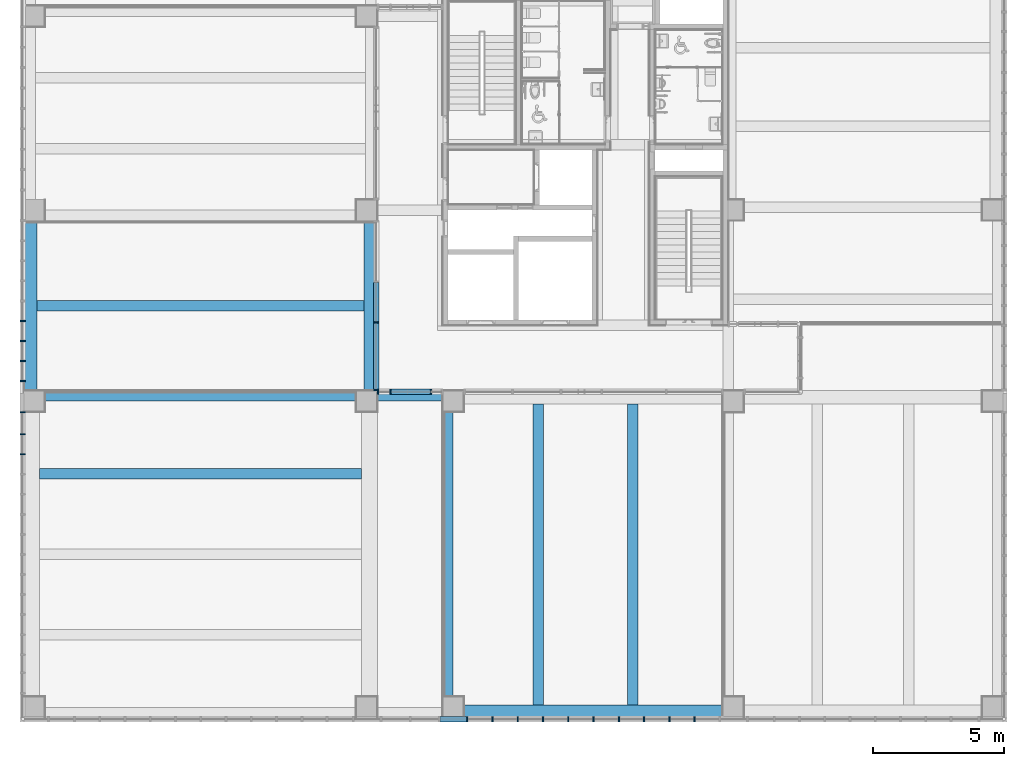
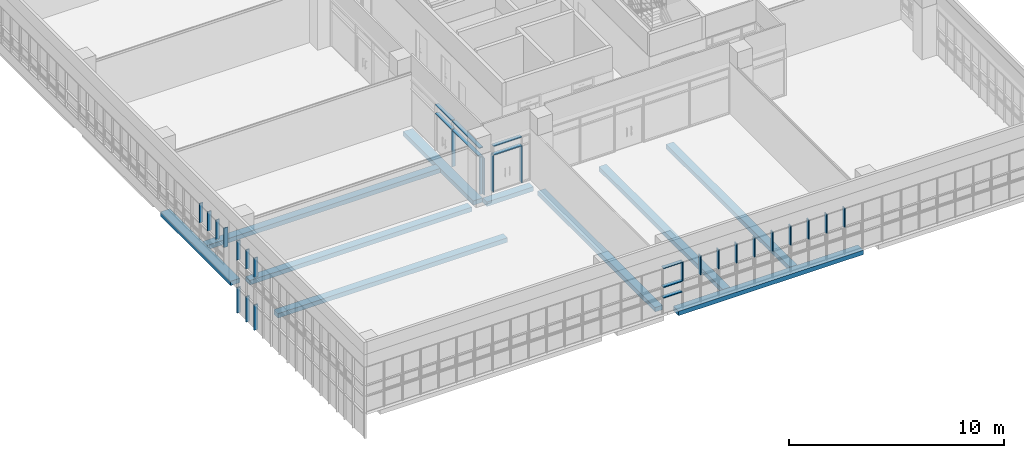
# One storey, part 3 of 81: 35 members, 10 beams, 5 elements without a shape of their own.
"""IFC2X3 building model written with IfcOpenShell, lengths in millimetres."""

from ifc_helpers import new_model, entity, si_unit, converted_unit, derived_unit, direction, frame, frame_2d, origin, origin_2d_with_axis, place, context, subcontext, project, spatial, rectangle, extrude, source, transform, mapped, material, type_object, type_shapes, element, aggregate, save


model = new_model("IFC2X3")

# Units and contexts
model_context = context("Model", 3, precision=0.01, world=origin(), true_north=direction((6.123031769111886e-17, 1.0)))
body_context = subcontext(model_context, "Body", "Model", "MODEL_VIEW")
ifc_project = project(units=[si_unit("LENGTHUNIT", "METRE", prefix="MILLI"), si_unit("AREAUNIT", "SQUARE_METRE"), si_unit("VOLUMEUNIT", "CUBIC_METRE"), converted_unit("PLANEANGLEUNIT", "DEGREE", entity("IfcRatioMeasure", 0.017453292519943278), si_unit("PLANEANGLEUNIT", "RADIAN"), dimensions=[0, 0, 0, 0, 0, 0, 0]), si_unit("MASSUNIT", "GRAM", prefix="KILO"), derived_unit("MASSDENSITYUNIT", [(si_unit("MASSUNIT", "GRAM", prefix="KILO"), 1), (si_unit("LENGTHUNIT", "METRE"), -3)]), derived_unit("MOMENTOFINERTIAUNIT", [(si_unit("LENGTHUNIT", "METRE"), 4)]), si_unit("TIMEUNIT", "SECOND"), si_unit("FREQUENCYUNIT", "HERTZ"), si_unit("THERMODYNAMICTEMPERATUREUNIT", "DEGREE_CELSIUS"), derived_unit("THERMALTRANSMITTANCEUNIT", [(si_unit("MASSUNIT", "GRAM", prefix="KILO"), 1), (si_unit("THERMODYNAMICTEMPERATUREUNIT", "KELVIN"), -1), (si_unit("TIMEUNIT", "SECOND"), -3)]), derived_unit("VOLUMETRICFLOWRATEUNIT", [(si_unit("LENGTHUNIT", "METRE"), 3), (si_unit("TIMEUNIT", "SECOND"), -1)]), derived_unit("MASSFLOWRATEUNIT", [(si_unit("MASSUNIT", "GRAM", prefix="KILO"), 1), (si_unit("TIMEUNIT", "SECOND"), -1)]), derived_unit("ROTATIONALFREQUENCYUNIT", [(si_unit("TIMEUNIT", "SECOND"), -1)]), si_unit("ELECTRICCURRENTUNIT", "AMPERE"), si_unit("ELECTRICVOLTAGEUNIT", "VOLT"), si_unit("POWERUNIT", "WATT"), si_unit("FORCEUNIT", "NEWTON", prefix="KILO"), si_unit("ILLUMINANCEUNIT", "LUX"), si_unit("LUMINOUSFLUXUNIT", "LUMEN"), si_unit("LUMINOUSINTENSITYUNIT", "CANDELA"), derived_unit("USERDEFINED", [(si_unit("MASSUNIT", "GRAM", prefix="KILO"), -1), (si_unit("LENGTHUNIT", "METRE"), -2), (si_unit("TIMEUNIT", "SECOND"), 3), (si_unit("LUMINOUSFLUXUNIT", "LUMEN"), 1)]), derived_unit("SOUNDPOWERUNIT", [(si_unit("MASSUNIT", "GRAM", prefix="KILO"), 1), (si_unit("LENGTHUNIT", "METRE"), 2), (si_unit("TIMEUNIT", "SECOND"), -3)]), derived_unit("SOUNDPRESSUREUNIT", [(si_unit("MASSUNIT", "GRAM", prefix="KILO"), 1), (si_unit("LENGTHUNIT", "METRE"), -1), (si_unit("TIMEUNIT", "SECOND"), -2)]), derived_unit("LINEARVELOCITYUNIT", [(si_unit("LENGTHUNIT", "METRE"), 1), (si_unit("TIMEUNIT", "SECOND"), -1)]), si_unit("PRESSUREUNIT", "PASCAL"), derived_unit("USERDEFINED", [(si_unit("LENGTHUNIT", "METRE"), -2), (si_unit("MASSUNIT", "GRAM", prefix="KILO"), 1), (si_unit("TIMEUNIT", "SECOND"), -2)]), derived_unit("LINEARFORCEUNIT", [(si_unit("MASSUNIT", "GRAM", prefix="KILO"), 1), (si_unit("LENGTHUNIT", "METRE"), 1), (si_unit("TIMEUNIT", "SECOND"), -2), (si_unit("LENGTHUNIT", "METRE"), -1)]), derived_unit("PLANARFORCEUNIT", [(si_unit("MASSUNIT", "GRAM", prefix="KILO"), 1), (si_unit("LENGTHUNIT", "METRE"), 1), (si_unit("TIMEUNIT", "SECOND"), -2), (si_unit("LENGTHUNIT", "METRE"), -2)])], contexts=[model_context])

# Site, building, storey
site_placement = place(None, frame((-14167.972527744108, -657.2125860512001, 0.0)))
site = spatial("IfcSite", under=ifc_project, at=site_placement, Name="Default", CompositionType="ELEMENT")
building_placement = place(site_placement, origin())
building = spatial("IfcBuilding", under=site, at=building_placement, Name="Sample Building", CompositionType="ELEMENT")
storey_placement = place(building_placement, frame((0.0, 0.0, 13400.0)))
storey = spatial("IfcBuildingStorey", under=building, at=storey_placement, Name="지상 4층", CompositionType="ELEMENT", Elevation=13400.00000000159)

# Curtain wall, members
curtain_wall_type = type_object("IfcCurtainWallType", Name="커튼월:CW112-스테인리스 스틸 커튼월", PredefinedType="NOTDEFINED")
curtain_wall_1_placement = place(storey_placement, frame((0.0, 0.0, -13400.0)))
curtain_wall_1 = element("IfcCurtainWall", 1, at=curtain_wall_1_placement, inside=storey, type_object=curtain_wall_type, Name="커튼월:CW112-스테인리스 스틸 커튼월", ObjectType="커튼월:CW112-스테인리스 스틸 커튼월")
ifc_material_1 = material(Name="<Unnamed>")
member_type_1 = type_object("IfcMemberType", Name="직사각형 멀리언:CW200-직사각형 멀리언 50x200mm", PredefinedType="MULLION", material=ifc_material_1)
shared_shape_1 = source(origin(), body_context, "Body", "SweptSolid", [
    extrude(rectangle(XDim=200.0, YDim=50.0, at=origin_2d_with_axis()), frame((-25.0, 0.0, -2100.0), z_axis=(0.0, 0.0, 1.0), x_axis=(0.0, -1.0, 0.0)), (0.0, 0.0, 1.0), 2100.0),
])
type_shapes(member_type_1, [shared_shape_1])
member_1_placement = place(curtain_wall_1_placement, frame((27522.95510516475, 13057.21261703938, 13480.0), z_axis=(0.0, 0.0, -1.0), x_axis=(0.0, -1.0, 0.0)))
member_1 = element("IfcMember", 2, at=member_1_placement, type_object=member_type_1, material=ifc_material_1, Name="직사각형 멀리언:CW200-직사각형 멀리언 50x200mm", ObjectType="직사각형 멀리언:CW200-직사각형 멀리언 50x200mm", context=body_context, shape_type="MappedRepresentation", body=[
    mapped(shared_shape_1, transform((0.0, 0.0, 0.0), scale=1.0)),
])
member_type_2 = type_object("IfcMemberType", Name="직사각형 멀리언:CW200-직사각형 멀리언 50x200mm", PredefinedType="MULLION", material=ifc_material_1)
shared_shape_2 = source(origin(), body_context, "Body", "SweptSolid", [
    extrude(rectangle(XDim=200.0, YDim=50.0, at=origin_2d_with_axis()), frame((-25.0, 0.0, -1500.0), z_axis=(0.0, 0.0, 1.0), x_axis=(0.0, -1.0, 0.0)), (0.0, 0.0, 1.0), 1500.0000000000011),
])
type_shapes(member_type_2, [shared_shape_2])
member_2_placement = place(curtain_wall_1_placement, frame((27522.955105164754, 15692.177624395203, 16100.0), z_axis=(0.0, -1.0, 0.0), x_axis=(0.0, 0.0, 1.0)))
member_2 = element("IfcMember", 3, at=member_2_placement, type_object=member_type_2, material=ifc_material_1, Name="직사각형 멀리언:CW200-직사각형 멀리언 50x200mm", ObjectType="직사각형 멀리언:CW200-직사각형 멀리언 50x200mm", context=body_context, shape_type="MappedRepresentation", body=[
    mapped(shared_shape_2, transform((0.0, 0.0, 0.0), scale=1.0)),
])
member_type_3 = type_object("IfcMemberType", Name="직사각형 멀리언:CW200-직사각형 멀리언 50x200mm", PredefinedType="MULLION", material=ifc_material_1)
shared_shape_3 = source(origin(), body_context, "Body", "SweptSolid", [
    extrude(rectangle(XDim=200.0, YDim=50.0, at=origin_2d_with_axis()), frame((0.0, 0.0, -1500.0), z_axis=(0.0, 0.0, 1.0), x_axis=(0.0, -1.0, 0.0)), (0.0, 0.0, 1.0), 1500.0000000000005),
])
type_shapes(member_type_3, [shared_shape_3])
member_3_placement = place(curtain_wall_1_placement, frame((27522.955105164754, 15692.177624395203, 15580.0), z_axis=(0.0, -1.0, 0.0), x_axis=(0.0, 0.0, 1.0)))
member_3 = element("IfcMember", 4, at=member_3_placement, type_object=member_type_3, material=ifc_material_1, Name="직사각형 멀리언:CW200-직사각형 멀리언 50x200mm", ObjectType="직사각형 멀리언:CW200-직사각형 멀리언 50x200mm", context=body_context, shape_type="MappedRepresentation", body=[
    mapped(shared_shape_3, transform((0.0, 0.0, 0.0), scale=1.0)),
])
member_type_4 = type_object("IfcMemberType", Name="직사각형 멀리언:CW200-직사각형 멀리언 50x200mm", PredefinedType="MULLION", material=ifc_material_1)
shared_shape_4 = source(origin(), body_context, "Body", "SweptSolid", [
    extrude(rectangle(XDim=200.0, YDim=50.0, at=origin_2d_with_axis()), frame((0.0, 0.0, -2100.0), z_axis=(0.0, 0.0, 1.0), x_axis=(0.0, -1.0, 0.0)), (0.0, 0.0, 1.0), 2100.0),
])
type_shapes(member_type_4, [shared_shape_4])
member_4_placement = place(curtain_wall_1_placement, frame((27522.955105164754, 15667.177624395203, 13480.0), z_axis=(0.0, 0.0, -1.0), x_axis=(0.0, -1.0, 0.0)))
member_4 = element("IfcMember", 5, at=member_4_placement, type_object=member_type_4, material=ifc_material_1, Name="직사각형 멀리언:CW200-직사각형 멀리언 50x200mm", ObjectType="직사각형 멀리언:CW200-직사각형 멀리언 50x200mm", context=body_context, shape_type="MappedRepresentation", body=[
    mapped(shared_shape_4, transform((0.0, 0.0, 0.0), scale=1.0)),
])
member_type_5 = type_object("IfcMemberType", Name="직사각형 멀리언:CW200-직사각형 멀리언 50x200mm", PredefinedType="MULLION", material=ifc_material_1)
shared_shape_5 = source(origin(), body_context, "Body", "SweptSolid", [
    extrude(rectangle(XDim=200.0, YDim=50.0, at=origin_2d_with_axis()), frame((-25.0, 0.0, -2534.965316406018), z_axis=(0.0, 0.0, 1.0), x_axis=(0.0, -1.0, 0.0)), (0.0, 0.0, 1.0), 2534.965316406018),
])
type_shapes(member_type_5, [shared_shape_5])
member_5_placement = place(curtain_wall_1_placement, frame((27522.95510516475, 13107.21261703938, 16100.0), z_axis=(0.0, -1.0, 0.0), x_axis=(0.0, 0.0, 1.0)))
member_5 = element("IfcMember", 6, at=member_5_placement, type_object=member_type_5, material=ifc_material_1, Name="직사각형 멀리언:CW200-직사각형 멀리언 50x200mm", ObjectType="직사각형 멀리언:CW200-직사각형 멀리언 50x200mm", context=body_context, shape_type="MappedRepresentation", body=[
    mapped(shared_shape_5, transform((0.0, 0.0, 0.0), scale=1.0)),
])
member_type_6 = type_object("IfcMemberType", Name="직사각형 멀리언:CW200-직사각형 멀리언 50x200mm", PredefinedType="MULLION", material=ifc_material_1)
shared_shape_6 = source(origin(), body_context, "Body", "SweptSolid", [
    extrude(rectangle(XDim=200.0, YDim=50.0, at=origin_2d_with_axis()), frame((0.0, 0.0, -2534.9653164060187), z_axis=(0.0, 0.0, 1.0), x_axis=(0.0, -1.0, 0.0)), (0.0, 0.0, 1.0), 2534.9653164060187),
])
type_shapes(member_type_6, [shared_shape_6])
member_6_placement = place(curtain_wall_1_placement, frame((27522.95510516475, 13107.21261703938, 15580.0), z_axis=(0.0, -1.0, 0.0), x_axis=(0.0, 0.0, 1.0)))
member_6 = element("IfcMember", 7, at=member_6_placement, type_object=member_type_6, material=ifc_material_1, Name="직사각형 멀리언:CW200-직사각형 멀리언 50x200mm", ObjectType="직사각형 멀리언:CW200-직사각형 멀리언 50x200mm", context=body_context, shape_type="MappedRepresentation", body=[
    mapped(shared_shape_6, transform((0.0, 0.0, 0.0), scale=1.0)),
])
aggregate(curtain_wall_1, [member_5, member_1, member_2, member_4, member_3, member_6])

curtain_wall_2_placement = place(storey_placement, frame((0.0, 0.0, -13400.0)))
curtain_wall_2 = element("IfcCurtainWall", 8, at=curtain_wall_2_placement, inside=storey, type_object=curtain_wall_type, Name="커튼월:CW112-스테인리스 스틸 커튼월", ObjectType="커튼월:CW112-스테인리스 스틸 커튼월")
member_type_7 = type_object("IfcMemberType", Name="직사각형 멀리언:CW200-직사각형 멀리언 50x200mm", PredefinedType="MULLION", material=ifc_material_1)
shared_shape_7 = source(origin(), body_context, "Body", "SweptSolid", [
    extrude(rectangle(XDim=200.0, YDim=50.0, at=origin_2d_with_axis()), frame((-25.0, 0.0, -2100.0), z_axis=(0.0, 0.0, 1.0), x_axis=(0.0, -1.0, 0.0)), (0.0, 0.0, 1.0), 2100.0),
])
type_shapes(member_type_7, [shared_shape_7])
member_7_placement = place(curtain_wall_2_placement, frame((27567.92042157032, 13012.212307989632, 13480.0), z_axis=(0.0, 0.0, -1.0), x_axis=(-1.0, 0.0, 0.0)))
member_7 = element("IfcMember", 9, at=member_7_placement, type_object=member_type_7, material=ifc_material_1, Name="직사각형 멀리언:CW200-직사각형 멀리언 50x200mm", ObjectType="직사각형 멀리언:CW200-직사각형 멀리언 50x200mm", context=body_context, shape_type="MappedRepresentation", body=[
    mapped(shared_shape_7, transform((0.0, 0.0, 0.0), scale=1.0)),
])
member_type_8 = type_object("IfcMemberType", Name="직사각형 멀리언:CW200-직사각형 멀리언 50x200mm", PredefinedType="MULLION", material=ifc_material_1)
shared_shape_8 = source(origin(), body_context, "Body", "SweptSolid", [
    extrude(rectangle(XDim=200.0, YDim=50.0, at=origin_2d_with_axis()), frame((0.0, 0.0, -1500.0), z_axis=(0.0, 0.0, 1.0), x_axis=(0.0, -1.0, 0.0)), (0.0, 0.0, 1.0), 1499.999999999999),
])
type_shapes(member_type_8, [shared_shape_8])
member_8_placement = place(curtain_wall_2_placement, frame((28091.09113086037, 13012.21230798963, 15580.0), z_axis=(-1.0, 0.0, 0.0), x_axis=(0.0, 0.0, 1.0)))
member_8 = element("IfcMember", 10, at=member_8_placement, type_object=member_type_8, material=ifc_material_1, Name="직사각형 멀리언:CW200-직사각형 멀리언 50x200mm", ObjectType="직사각형 멀리언:CW200-직사각형 멀리언 50x200mm", context=body_context, shape_type="MappedRepresentation", body=[
    mapped(shared_shape_8, transform((0.0, 0.0, 0.0), scale=1.0)),
])
member_type_9 = type_object("IfcMemberType", Name="직사각형 멀리언:CW200-직사각형 멀리언 50x200mm", PredefinedType="MULLION", material=ifc_material_1)
shared_shape_9 = source(origin(), body_context, "Body", "SweptSolid", [
    extrude(rectangle(XDim=200.0, YDim=50.0, at=origin_2d_with_axis()), frame((0.0, 0.0, -2100.0), z_axis=(0.0, 0.0, 1.0), x_axis=(0.0, -1.0, 0.0)), (0.0, 0.0, 1.0), 2100.0),
])
type_shapes(member_type_9, [shared_shape_9])
member_9_placement = place(curtain_wall_2_placement, frame((29616.09113086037, 13012.212307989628, 13480.0), z_axis=(0.0, 0.0, -1.0), x_axis=(-1.0, 0.0, 0.0)))
member_9 = element("IfcMember", 11, at=member_9_placement, type_object=member_type_9, material=ifc_material_1, Name="직사각형 멀리언:CW200-직사각형 멀리언 50x200mm", ObjectType="직사각형 멀리언:CW200-직사각형 멀리언 50x200mm", context=body_context, shape_type="MappedRepresentation", body=[
    mapped(shared_shape_9, transform((0.0, 0.0, 0.0), scale=1.0)),
])
member_10_placement = place(curtain_wall_2_placement, frame((28066.091130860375, 13012.21230798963, 13480.0), z_axis=(0.0, 0.0, -1.0), x_axis=(-1.0, 0.0, 0.0)))
member_10 = element("IfcMember", 12, at=member_10_placement, type_object=member_type_9, material=ifc_material_1, Name="직사각형 멀리언:CW200-직사각형 멀리언 50x200mm", ObjectType="직사각형 멀리언:CW200-직사각형 멀리언 50x200mm", context=body_context, shape_type="MappedRepresentation", body=[
    mapped(shared_shape_9, transform((0.0, 0.0, 0.0), scale=1.0)),
])
member_type_10 = type_object("IfcMemberType", Name="직사각형 멀리언:CW200-직사각형 멀리언 50x200mm", PredefinedType="MULLION", material=ifc_material_1)
shared_shape_10 = source(origin(), body_context, "Body", "SweptSolid", [
    extrude(rectangle(XDim=200.0, YDim=50.0, at=origin_2d_with_axis()), frame((-25.0, 0.0, -1500.0), z_axis=(0.0, 0.0, 1.0), x_axis=(0.0, -1.0, 0.0)), (0.0, 0.0, 1.0), 1499.999999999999),
])
type_shapes(member_type_10, [shared_shape_10])
member_11_placement = place(curtain_wall_2_placement, frame((28091.09113086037, 13012.21230798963, 16100.0), z_axis=(-1.0, 0.0, 0.0), x_axis=(0.0, 0.0, 1.0)))
member_11 = element("IfcMember", 13, at=member_11_placement, type_object=member_type_10, material=ifc_material_1, Name="직사각형 멀리언:CW200-직사각형 멀리언 50x200mm", ObjectType="직사각형 멀리언:CW200-직사각형 멀리언 50x200mm", context=body_context, shape_type="MappedRepresentation", body=[
    mapped(shared_shape_10, transform((0.0, 0.0, 0.0), scale=1.0)),
])
aggregate(curtain_wall_2, [member_7, member_8, member_9, member_11, member_10])

curtain_wall_3_placement = place(storey_placement, frame((0.0, 0.0, -13400.0)))
curtain_wall_3 = element("IfcCurtainWall", 14, at=curtain_wall_3_placement, inside=storey, type_object=curtain_wall_type, Name="커튼월:CW112-스테인리스 스틸 커튼월", ObjectType="커튼월:CW112-스테인리스 스틸 커튼월")
member_type_11 = type_object("IfcMemberType", Name="직사각형 멀리언:CW200-직사각형 멀리언 50x200mm", PredefinedType="MULLION", material=ifc_material_1)
shared_shape_11 = source(origin(), body_context, "Body", "SweptSolid", [
    extrude(rectangle(XDim=200.0, YDim=50.0, at=origin_2d_with_axis()), frame((-25.0, 0.0, -1100.0), z_axis=(0.0, 0.0, 1.0), x_axis=(0.0, -1.0, 0.0)), (0.0, 0.0, 1.0), 1100.0000000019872),
])
type_shapes(member_type_11, [shared_shape_11])
member_12_placement = place(curtain_wall_3_placement, frame((14017.955105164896, 12257.21258605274, 16100.0), z_axis=(0.0, 0.0, 1.0), x_axis=(0.0, 1.0, 0.0)))
member_12 = element("IfcMember", 15, at=member_12_placement, type_object=member_type_11, material=ifc_material_1, Name="직사각형 멀리언:CW200-직사각형 멀리언 50x200mm", ObjectType="직사각형 멀리언:CW200-직사각형 멀리언 50x200mm", context=body_context, shape_type="MappedRepresentation", body=[
    mapped(shared_shape_11, transform((0.0, 0.0, 0.0), scale=1.0)),
])
member_type_12 = type_object("IfcMemberType", Name="직사각형 멀리언:CW200-직사각형 멀리언 50x200mm", PredefinedType="MULLION", material=ifc_material_1)
shared_shape_12 = source(origin(), body_context, "Body", "SweptSolid", [
    extrude(rectangle(XDim=200.0, YDim=50.0, at=origin_2d_with_axis()), frame((0.0, 0.0, -1450.0), z_axis=(0.0, 0.0, 1.0), x_axis=(0.0, -1.0, 0.0)), (0.0, 0.0, 1.0), 1449.9999999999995),
])
type_shapes(member_type_12, [shared_shape_12])
member_13_placement = place(curtain_wall_3_placement, frame((14017.955105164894, 10629.817707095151, 12000.0), z_axis=(0.0, 0.0, -1.0), x_axis=(0.0, -1.0, 0.0)))
member_13 = element("IfcMember", 16, at=member_13_placement, type_object=member_type_12, material=ifc_material_1, Name="직사각형 멀리언:CW200-직사각형 멀리언 50x200mm", ObjectType="직사각형 멀리언:CW200-직사각형 멀리언 50x200mm", context=body_context, shape_type="MappedRepresentation", body=[
    mapped(shared_shape_12, transform((0.0, 0.0, 0.0), scale=1.0)),
])
member_14_placement = place(curtain_wall_3_placement, frame((14017.955105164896, 11395.81770709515, 12000.0), z_axis=(0.0, 0.0, -1.0), x_axis=(0.0, -1.0, 0.0)))
member_14 = element("IfcMember", 17, at=member_14_placement, type_object=member_type_12, material=ifc_material_1, Name="직사각형 멀리언:CW200-직사각형 멀리언 50x200mm", ObjectType="직사각형 멀리언:CW200-직사각형 멀리언 50x200mm", context=body_context, shape_type="MappedRepresentation", body=[
    mapped(shared_shape_12, transform((0.0, 0.0, 0.0), scale=1.0)),
])
member_type_13 = type_object("IfcMemberType", Name="직사각형 멀리언:CW200-직사각형 멀리언 50x200mm", PredefinedType="MULLION", material=ifc_material_1)
shared_shape_13 = source(origin(), body_context, "Body", "SweptSolid", [
    extrude(rectangle(XDim=200.0, YDim=50.0, at=origin_2d_with_axis()), frame((0.0, 0.0, -1100.0), z_axis=(0.0, 0.0, 1.0), x_axis=(0.0, -1.0, 0.0)), (0.0, 0.0, 1.0), 1100.0000000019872),
])
type_shapes(member_type_13, [shared_shape_13])
member_15_placement = place(curtain_wall_3_placement, frame((14017.955105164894, 10629.817707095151, 15000.0), z_axis=(0.0, 0.0, -1.0), x_axis=(0.0, -1.0, 0.0)))
member_15 = element("IfcMember", 18, at=member_15_placement, type_object=member_type_13, material=ifc_material_1, Name="직사각형 멀리언:CW200-직사각형 멀리언 50x200mm", ObjectType="직사각형 멀리언:CW200-직사각형 멀리언 50x200mm", context=body_context, shape_type="MappedRepresentation", body=[
    mapped(shared_shape_13, transform((0.0, 0.0, 0.0), scale=1.0)),
])
member_16_placement = place(curtain_wall_3_placement, frame((14017.955105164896, 11395.817707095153, 15000.0), z_axis=(0.0, 0.0, -1.0), x_axis=(0.0, -1.0, 0.0)))
member_16 = element("IfcMember", 19, at=member_16_placement, type_object=member_type_13, material=ifc_material_1, Name="직사각형 멀리언:CW200-직사각형 멀리언 50x200mm", ObjectType="직사각형 멀리언:CW200-직사각형 멀리언 50x200mm", context=body_context, shape_type="MappedRepresentation", body=[
    mapped(shared_shape_13, transform((0.0, 0.0, 0.0), scale=1.0)),
])

curtain_wall_4_placement = place(storey_placement, frame((0.0, 0.0, -13400.0)))
curtain_wall_4 = element("IfcCurtainWall", 20, at=curtain_wall_4_placement, inside=storey, type_object=curtain_wall_type, Name="커튼월:CW112-스테인리스 스틸 커튼월", ObjectType="커튼월:CW112-스테인리스 스틸 커튼월")
member_17_placement = place(curtain_wall_4_placement, frame((14018.570555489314, 15721.31770709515, 15000.0), z_axis=(0.0, 0.0, -1.0), x_axis=(0.0, -1.0, 0.0)))
member_17 = element("IfcMember", 21, at=member_17_placement, type_object=member_type_13, material=ifc_material_1, Name="직사각형 멀리언:CW200-직사각형 멀리언 50x200mm", ObjectType="직사각형 멀리언:CW200-직사각형 멀리언 50x200mm", context=body_context, shape_type="MappedRepresentation", body=[
    mapped(shared_shape_13, transform((0.0, 0.0, 0.0), scale=1.0)),
])
member_18_placement = place(curtain_wall_4_placement, frame((14018.570555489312, 14954.817707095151, 15000.0), z_axis=(0.0, 0.0, -1.0), x_axis=(0.0, -1.0, 0.0)))
member_18 = element("IfcMember", 22, at=member_18_placement, type_object=member_type_13, material=ifc_material_1, Name="직사각형 멀리언:CW200-직사각형 멀리언 50x200mm", ObjectType="직사각형 멀리언:CW200-직사각형 멀리언 50x200mm", context=body_context, shape_type="MappedRepresentation", body=[
    mapped(shared_shape_13, transform((0.0, 0.0, 0.0), scale=1.0)),
])
member_19_placement = place(curtain_wall_4_placement, frame((14018.57055548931, 14188.31770709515, 15000.0), z_axis=(0.0, 0.0, -1.0), x_axis=(0.0, -1.0, 0.0)))
member_19 = element("IfcMember", 23, at=member_19_placement, type_object=member_type_13, material=ifc_material_1, Name="직사각형 멀리언:CW200-직사각형 멀리언 50x200mm", ObjectType="직사각형 멀리언:CW200-직사각형 멀리언 50x200mm", context=body_context, shape_type="MappedRepresentation", body=[
    mapped(shared_shape_13, transform((0.0, 0.0, 0.0), scale=1.0)),
])
member_20_placement = place(curtain_wall_4_placement, frame((14018.57055548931, 13421.817707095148, 15000.0), z_axis=(0.0, 0.0, -1.0), x_axis=(0.0, -1.0, 0.0)))
member_20 = element("IfcMember", 24, at=member_20_placement, type_object=member_type_13, material=ifc_material_1, Name="직사각형 멀리언:CW200-직사각형 멀리언 50x200mm", ObjectType="직사각형 멀리언:CW200-직사각형 멀리언 50x200mm", context=body_context, shape_type="MappedRepresentation", body=[
    mapped(shared_shape_13, transform((0.0, 0.0, 0.0), scale=1.0)),
])

curtain_wall_5_placement = place(storey_placement, frame((0.0, 0.0, -13400.0)))
curtain_wall_5 = element("IfcCurtainWall", 25, at=curtain_wall_5_placement, inside=storey, type_object=curtain_wall_type, Name="커튼월:CW112-스테인리스 스틸 커튼월", ObjectType="커튼월:CW112-스테인리스 스틸 커튼월")
member_21_placement = place(curtain_wall_5_placement, frame((31005.156070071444, 507.2122951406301, 15000.0), z_axis=(0.0, 0.0, -1.0), x_axis=(1.0, 0.0, 0.0)))
member_21 = element("IfcMember", 26, at=member_21_placement, type_object=member_type_13, material=ifc_material_1, Name="직사각형 멀리언:CW200-직사각형 멀리언 50x200mm", ObjectType="직사각형 멀리언:CW200-직사각형 멀리언 50x200mm", context=body_context, shape_type="MappedRepresentation", body=[
    mapped(shared_shape_13, transform((0.0, 0.0, 0.0), scale=1.0)),
])
member_22_placement = place(curtain_wall_5_placement, frame((31970.156070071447, 507.21229514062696, 15000.0), z_axis=(0.0, 0.0, -1.0), x_axis=(1.0, 0.0, 0.0)))
member_22 = element("IfcMember", 27, at=member_22_placement, type_object=member_type_13, material=ifc_material_1, Name="직사각형 멀리언:CW200-직사각형 멀리언 50x200mm", ObjectType="직사각형 멀리언:CW200-직사각형 멀리언 50x200mm", context=body_context, shape_type="MappedRepresentation", body=[
    mapped(shared_shape_13, transform((0.0, 0.0, 0.0), scale=1.0)),
])
member_23_placement = place(curtain_wall_5_placement, frame((32935.156070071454, 507.2122951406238, 15000.0), z_axis=(0.0, 0.0, -1.0), x_axis=(1.0, 0.0, 0.0)))
member_23 = element("IfcMember", 28, at=member_23_placement, type_object=member_type_13, material=ifc_material_1, Name="직사각형 멀리언:CW200-직사각형 멀리언 50x200mm", ObjectType="직사각형 멀리언:CW200-직사각형 멀리언 50x200mm", context=body_context, shape_type="MappedRepresentation", body=[
    mapped(shared_shape_13, transform((0.0, 0.0, 0.0), scale=1.0)),
])
member_24_placement = place(curtain_wall_5_placement, frame((33900.156070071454, 507.2122951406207, 15000.0), z_axis=(0.0, 0.0, -1.0), x_axis=(1.0, 0.0, 0.0)))
member_24 = element("IfcMember", 29, at=member_24_placement, type_object=member_type_13, material=ifc_material_1, Name="직사각형 멀리언:CW200-직사각형 멀리언 50x200mm", ObjectType="직사각형 멀리언:CW200-직사각형 멀리언 50x200mm", context=body_context, shape_type="MappedRepresentation", body=[
    mapped(shared_shape_13, transform((0.0, 0.0, 0.0), scale=1.0)),
])
member_25_placement = place(curtain_wall_5_placement, frame((34865.156070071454, 507.2122951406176, 15000.0), z_axis=(0.0, 0.0, -1.0), x_axis=(1.0, 0.0, 0.0)))
member_25 = element("IfcMember", 30, at=member_25_placement, type_object=member_type_13, material=ifc_material_1, Name="직사각형 멀리언:CW200-직사각형 멀리언 50x200mm", ObjectType="직사각형 멀리언:CW200-직사각형 멀리언 50x200mm", context=body_context, shape_type="MappedRepresentation", body=[
    mapped(shared_shape_13, transform((0.0, 0.0, 0.0), scale=1.0)),
])
member_26_placement = place(curtain_wall_5_placement, frame((35830.156070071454, 507.21229514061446, 15000.0), z_axis=(0.0, 0.0, -1.0), x_axis=(1.0, 0.0, 0.0)))
member_26 = element("IfcMember", 31, at=member_26_placement, type_object=member_type_13, material=ifc_material_1, Name="직사각형 멀리언:CW200-직사각형 멀리언 50x200mm", ObjectType="직사각형 멀리언:CW200-직사각형 멀리언 50x200mm", context=body_context, shape_type="MappedRepresentation", body=[
    mapped(shared_shape_13, transform((0.0, 0.0, 0.0), scale=1.0)),
])
member_27_placement = place(curtain_wall_5_placement, frame((36795.156070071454, 507.21229514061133, 15000.0), z_axis=(0.0, 0.0, -1.0), x_axis=(1.0, 0.0, 0.0)))
member_27 = element("IfcMember", 32, at=member_27_placement, type_object=member_type_13, material=ifc_material_1, Name="직사각형 멀리언:CW200-직사각형 멀리언 50x200mm", ObjectType="직사각형 멀리언:CW200-직사각형 멀리언 50x200mm", context=body_context, shape_type="MappedRepresentation", body=[
    mapped(shared_shape_13, transform((0.0, 0.0, 0.0), scale=1.0)),
])
member_28_placement = place(curtain_wall_5_placement, frame((37760.156070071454, 507.21229514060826, 15000.0), z_axis=(0.0, 0.0, -1.0), x_axis=(1.0, 0.0, 0.0)))
member_28 = element("IfcMember", 33, at=member_28_placement, type_object=member_type_13, material=ifc_material_1, Name="직사각형 멀리언:CW200-직사각형 멀리언 50x200mm", ObjectType="직사각형 멀리언:CW200-직사각형 멀리언 50x200mm", context=body_context, shape_type="MappedRepresentation", body=[
    mapped(shared_shape_13, transform((0.0, 0.0, 0.0), scale=1.0)),
])
member_29_placement = place(curtain_wall_5_placement, frame((38725.156070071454, 507.21229514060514, 15000.0), z_axis=(0.0, 0.0, -1.0), x_axis=(1.0, 0.0, 0.0)))
member_29 = element("IfcMember", 34, at=member_29_placement, type_object=member_type_13, material=ifc_material_1, Name="직사각형 멀리언:CW200-직사각형 멀리언 50x200mm", ObjectType="직사각형 멀리언:CW200-직사각형 멀리언 50x200mm", context=body_context, shape_type="MappedRepresentation", body=[
    mapped(shared_shape_13, transform((0.0, 0.0, 0.0), scale=1.0)),
])
member_30_placement = place(curtain_wall_5_placement, frame((39690.15607007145, 507.212295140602, 15000.0), z_axis=(0.0, 0.0, -1.0), x_axis=(1.0, 0.0, 0.0)))
member_30 = element("IfcMember", 35, at=member_30_placement, type_object=member_type_13, material=ifc_material_1, Name="직사각형 멀리언:CW200-직사각형 멀리언 50x200mm", ObjectType="직사각형 멀리언:CW200-직사각형 멀리언 50x200mm", context=body_context, shape_type="MappedRepresentation", body=[
    mapped(shared_shape_13, transform((0.0, 0.0, 0.0), scale=1.0)),
])

# Member
member_type_14 = type_object("IfcMemberType", Name="직사각형 멀리언:CW200-직사각형 멀리언 50x200mm", PredefinedType="MULLION", material=ifc_material_1)
shared_shape_14 = source(origin(), body_context, "Body", "SweptSolid", [
    extrude(rectangle(XDim=200.0, YDim=50.0, at=origin_2d_with_axis()), frame((-25.0, 0.0, -1450.0), z_axis=(0.0, 0.0, 1.0), x_axis=(0.0, -1.0, 0.0)), (0.0, 0.0, 1.0), 1449.9999999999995),
])
type_shapes(member_type_14, [shared_shape_14])
member_31_placement = place(curtain_wall_3_placement, frame((14017.955105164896, 12257.21258605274, 13450.0), z_axis=(0.0, 0.0, 1.0), x_axis=(0.0, 1.0, 0.0)))
member_31 = element("IfcMember", 36, at=member_31_placement, type_object=member_type_14, material=ifc_material_1, Name="직사각형 멀리언:CW200-직사각형 멀리언 50x200mm", ObjectType="직사각형 멀리언:CW200-직사각형 멀리언 50x200mm", context=body_context, shape_type="MappedRepresentation", body=[
    mapped(shared_shape_14, transform((0.0, 0.0, 0.0), scale=1.0)),
])

aggregate(curtain_wall_3, [member_12, member_31, member_13, member_15, member_14, member_16])

member_type_15 = type_object("IfcMemberType", Name="직사각형 멀리언:CW200-직사각형 멀리언 50x200mm", PredefinedType="MULLION", material=ifc_material_1)
shared_shape_15 = source(origin(), body_context, "Body", "SweptSolid", [
    extrude(rectangle(XDim=200.0, YDim=50.0, at=origin_2d_with_axis()), frame((-25.0, 0.0, -1100.0), z_axis=(0.0, 0.0, 1.0), x_axis=(0.0, -1.0, 0.0)), (0.0, 0.0, 1.0), 1099.999999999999),
])
type_shapes(member_type_15, [shared_shape_15])
member_32_placement = place(curtain_wall_4_placement, frame((14018.57055548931, 13396.817707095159, 15000.0), z_axis=(0.0, 0.0, -1.0), x_axis=(0.0, -1.0, 0.0)))
member_32 = element("IfcMember", 37, at=member_32_placement, type_object=member_type_15, material=ifc_material_1, Name="직사각형 멀리언:CW200-직사각형 멀리언 50x200mm", ObjectType="직사각형 멀리언:CW200-직사각형 멀리언 50x200mm", context=body_context, shape_type="MappedRepresentation", body=[
    mapped(shared_shape_15, transform((0.0, 0.0, 0.0), scale=1.0)),
])

aggregate(curtain_wall_4, [member_32, member_17, member_18, member_19, member_20])

member_type_16 = type_object("IfcMemberType", Name="직사각형 멀리언:CW200-직사각형 멀리언 50x200mm", PredefinedType="MULLION", material=ifc_material_1)
shared_shape_16 = source(origin(), body_context, "Body", "SweptSolid", [
    extrude(rectangle(XDim=200.0, YDim=50.0, at=origin_2d_with_axis()), frame((0.0, 0.0, -1010.0), z_axis=(0.0, 0.0, 1.0), x_axis=(0.0, -1.0, 0.0)), (0.0, 0.0, 1.0), 1009.9999999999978),
])
type_shapes(member_type_16, [shared_shape_16])
member_33_placement = place(curtain_wall_5_placement, frame((30980.156070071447, 507.21229514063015, 14400.0), z_axis=(1.0, 0.0, 0.0), x_axis=(0.0, 0.0, 1.0)))
member_33 = element("IfcMember", 38, at=member_33_placement, type_object=member_type_16, material=ifc_material_1, Name="직사각형 멀리언:CW200-직사각형 멀리언 50x200mm", ObjectType="직사각형 멀리언:CW200-직사각형 멀리언 50x200mm", context=body_context, shape_type="MappedRepresentation", body=[
    mapped(shared_shape_16, transform((0.0, 0.0, 0.0), scale=1.0)),
])

member_34_placement = place(curtain_wall_5_placement, frame((30980.156070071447, 507.21229514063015, 15000.0), z_axis=(1.0, 0.0, 0.0), x_axis=(0.0, 0.0, 1.0)))
member_34 = element("IfcMember", 39, at=member_34_placement, type_object=member_type_16, material=ifc_material_1, Name="직사각형 멀리언:CW200-직사각형 멀리언 50x200mm", ObjectType="직사각형 멀리언:CW200-직사각형 멀리언 50x200mm", context=body_context, shape_type="MappedRepresentation", body=[
    mapped(shared_shape_16, transform((0.0, 0.0, 0.0), scale=1.0)),
])

member_type_17 = type_object("IfcMemberType", Name="직사각형 멀리언:CW200-직사각형 멀리언 50x200mm", PredefinedType="MULLION", material=ifc_material_1)
shared_shape_17 = source(origin(), body_context, "Body", "SweptSolid", [
    extrude(rectangle(XDim=200.0, YDim=50.0, at=origin_2d_with_axis()), frame((-25.0, 0.0, -1010.0), z_axis=(0.0, 0.0, 1.0), x_axis=(0.0, -1.0, 0.0)), (0.0, 0.0, 1.0), 1009.9999999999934),
])
type_shapes(member_type_17, [shared_shape_17])
member_35_placement = place(curtain_wall_5_placement, frame((30980.156070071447, 507.21229514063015, 16100.0), z_axis=(1.0, 0.0, 0.0), x_axis=(0.0, 0.0, 1.0)))
member_35 = element("IfcMember", 40, at=member_35_placement, type_object=member_type_17, material=ifc_material_1, Name="직사각형 멀리언:CW200-직사각형 멀리언 50x200mm", ObjectType="직사각형 멀리언:CW200-직사각형 멀리언 50x200mm", context=body_context, shape_type="MappedRepresentation", body=[
    mapped(shared_shape_17, transform((0.0, 0.0, 0.0), scale=1.0)),
])

aggregate(curtain_wall_5, [member_35, member_33, member_34, member_21, member_22, member_23, member_24, member_25, member_26, member_27, member_28, member_29, member_30])

# Beams
ifc_material_2 = material(Name="KBIMS-콘크리트")
beam_type_1 = type_object("IfcBeamType", Name="BM111-철근콘크리트구조 보:BM110-철근 콘크리트구조 보_400 x 400_2-10G7", PredefinedType="NOTDEFINED")
beam_1_placement = place(storey_placement, frame((27317.963914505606, 12857.212478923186, 0.0), z_axis=(0.0, 0.0, 1.0), x_axis=(-1.0, 0.0, 0.0)))
element("IfcBeam", 41, at=beam_1_placement, inside=storey, type_object=beam_type_1, material=ifc_material_2, Name="BM111-철근콘크리트구조 보:BM110-철근 콘크리트구조 보_400 x 400_2-10G7", ObjectType="BM111-철근콘크리트구조 보:BM110-철근 콘크리트구조 보_400 x 400_2-10G7", context=body_context, shape_type="SweptSolid", body=[
    extrude(rectangle(XDim=250.00000000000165, YDim=400.0000000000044, at=frame_2d((-1.0800249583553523e-12, 0.0), x_axis=(1.0, 0.0))), frame((550.0087727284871, 0.0, -275.0), z_axis=(1.0, 0.0, 0.0), x_axis=(0.0, 0.0, -1.0)), (0.0, 0.0, 1.0), 11900.000055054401),
])
beam_type_2 = type_object("IfcBeamType", Name="BM111-철근콘크리트구조 보:BM110-철근 콘크리트구조 보_400 x 400_2-10G8", PredefinedType="NOTDEFINED")
beam_2_placement = place(storey_placement, frame((27317.963914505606, 12857.212604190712, 0.0)))
element("IfcBeam", 42, at=beam_2_placement, inside=storey, type_object=beam_type_2, material=ifc_material_2, Name="BM111-철근콘크리트구조 보:BM110-철근 콘크리트구조 보_400 x 400_2-10G8", ObjectType="BM111-철근콘크리트구조 보:BM110-철근 콘크리트구조 보_400 x 400_2-10G8", context=body_context, shape_type="SweptSolid", body=[
    extrude(rectangle(XDim=250.00000000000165, YDim=400.0000000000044, at=frame_2d((-1.0800249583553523e-12, 0.0), x_axis=(1.0, 0.0))), frame((249.991227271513, 0.0, -275.0), z_axis=(1.0, 0.0, 0.0), x_axis=(0.0, 0.0, -1.0)), (0.0, 0.0, 1.0), 2499.9999725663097),
])
beam_type_3 = type_object("IfcBeamType", Name="BM111-철근콘크리트구조 보:BM110-철근 콘크리트구조 보_500 x 400_2-10G9", PredefinedType="NOTDEFINED")
beam_3_placement = place(storey_placement, frame((30866.521346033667, 807.2123909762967, 0.0)))
element("IfcBeam", 43, at=beam_3_placement, inside=storey, type_object=beam_type_3, material=ifc_material_2, Name="BM111-철근콘크리트구조 보:BM110-철근 콘크리트구조 보_500 x 400_2-10G9", ObjectType="BM111-철근콘크리트구조 보:BM110-철근 콘크리트구조 보_500 x 400_2-10G9", context=body_context, shape_type="SweptSolid", body=[
    extrude(rectangle(XDim=250.00000000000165, YDim=500.00000000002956, at=frame_2d((-1.0800249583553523e-12, -1.9483081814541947e-11), x_axis=(1.0, 0.0))), frame((1.4337683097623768, 0.0, -275.0), z_axis=(1.0, 0.0, 0.0), x_axis=(0.0, 0.0, -1.0)), (0.0, 0.0, 1.0), 9900.000027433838),
])
beam_type_4 = type_object("IfcBeamType", Name="BM111-철근콘크리트구조 보:BM110-철근 콘크리트구조 보_400 x 400_2-10B3", PredefinedType="NOTDEFINED")
beam_4_placement = place(storey_placement, frame((14317.95510516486, 16307.247783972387, 0.0)))
element("IfcBeam", 44, at=beam_4_placement, inside=storey, type_object=beam_type_4, material=ifc_material_2, Name="BM111-철근콘크리트구조 보:BM110-철근 콘크리트구조 보_400 x 400_2-10B3", ObjectType="BM111-철근콘크리트구조 보:BM110-철근 콘크리트구조 보_400 x 400_2-10B3", context=body_context, shape_type="SweptSolid", body=[
    extrude(rectangle(XDim=250.00000000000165, YDim=400.0000000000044, at=frame_2d((-1.0800249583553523e-12, 0.0), x_axis=(1.0, 0.0))), frame((250.0, 0.0, -275.0), z_axis=(1.0, 0.0, 0.0), x_axis=(0.0, 0.0, -1.0)), (0.0, 0.0, 1.0), 12500.008809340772),
])
beam_5_placement = place(storey_placement, frame((27267.955221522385, 9882.212478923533, 0.0), z_axis=(0.0, 0.0, 1.0), x_axis=(-1.0, 0.0, 0.0)))
element("IfcBeam", 45, at=beam_5_placement, inside=storey, type_object=beam_type_4, material=ifc_material_2, Name="BM111-철근콘크리트구조 보:BM110-철근 콘크리트구조 보_400 x 400_2-10B3", ObjectType="BM111-철근콘크리트구조 보:BM110-철근 콘크리트구조 보_400 x 400_2-10B3", context=body_context, shape_type="SweptSolid", body=[
    extrude(rectangle(XDim=250.00000000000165, YDim=400.0000000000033, at=frame_2d((-1.0800249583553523e-12, -5.400124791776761e-13), x_axis=(1.0, 0.0))), frame((300.0, 0.0, -275.0), z_axis=(1.0, 0.0, 0.0), x_axis=(0.0, 0.0, -1.0)), (0.0, 0.0, 1.0), 12300.000000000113),
])
beam_type_5 = type_object("IfcBeamType", Name="BM111-철근콘크리트구조 보:BM110-철근 콘크리트구조 보_400 x 400_2-10G6", PredefinedType="NOTDEFINED")
beam_6_placement = place(storey_placement, frame((30267.94644879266, 12607.212617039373, 0.0), z_axis=(0.0, 0.0, 1.0), x_axis=(0.0, -1.0, 0.0)))
element("IfcBeam", 46, at=beam_6_placement, inside=storey, type_object=beam_type_5, material=ifc_material_2, Name="BM111-철근콘크리트구조 보:BM110-철근 콘크리트구조 보_400 x 400_2-10G6", ObjectType="BM111-철근콘크리트구조 보:BM110-철근 콘크리트구조 보_400 x 400_2-10G6", context=body_context, shape_type="SweptSolid", body=[
    extrude(rectangle(XDim=250.00000000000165, YDim=400.0000000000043, at=frame_2d((-1.0800249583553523e-12, -4.334310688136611e-12), x_axis=(1.0, 0.0))), frame((350.0, 0.0, -275.0), z_axis=(1.0, 0.0, 0.0), x_axis=(0.0, 0.0, -1.0)), (0.0, 0.0, 1.0), 10900.000421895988),
])
beam_type_6 = type_object("IfcBeamType", Name="BM111-철근콘크리트구조 보:BM110-철근 콘크리트구조 보_400 x 400_2-10B2", PredefinedType="NOTDEFINED")
beam_7_placement = place(storey_placement, frame((33717.963877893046, 12807.212604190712, 0.0), z_axis=(0.0, 0.0, 1.0), x_axis=(0.0, -1.0, 0.0)))
element("IfcBeam", 47, at=beam_7_placement, inside=storey, type_object=beam_type_6, material=ifc_material_2, Name="BM111-철근콘크리트구조 보:BM110-철근 콘크리트구조 보_400 x 400_2-10B2", ObjectType="BM111-철근콘크리트구조 보:BM110-철근 콘크리트구조 보_400 x 400_2-10B2", context=body_context, shape_type="SweptSolid", body=[
    extrude(rectangle(XDim=250.00000000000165, YDim=400.0000000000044, at=frame_2d((-1.0800249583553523e-12, 0.0), x_axis=(1.0, 0.0))), frame((250.0, 0.0, -275.0), z_axis=(1.0, 0.0, 0.0), x_axis=(0.0, 0.0, -1.0)), (0.0, 0.0, 1.0), 11500.000213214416),
])
beam_8_placement = place(storey_placement, frame((37317.963877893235, 12807.212604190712, 0.0), z_axis=(0.0, 0.0, 1.0), x_axis=(0.0, -1.0, 0.0)))
element("IfcBeam", 48, at=beam_8_placement, inside=storey, type_object=beam_type_6, material=ifc_material_2, Name="BM111-철근콘크리트구조 보:BM110-철근 콘크리트구조 보_400 x 400_2-10B2", ObjectType="BM111-철근콘크리트구조 보:BM110-철근 콘크리트구조 보_400 x 400_2-10B2", context=body_context, shape_type="SweptSolid", body=[
    extrude(rectangle(XDim=250.00000000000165, YDim=400.0000000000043, at=frame_2d((-1.0800249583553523e-12, -4.334310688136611e-12), x_axis=(1.0, 0.0))), frame((250.0, 0.0, -275.0), z_axis=(1.0, 0.0, 0.0), x_axis=(0.0, 0.0, -1.0)), (0.0, 0.0, 1.0), 11500.000213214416),
])
beam_type_7 = type_object("IfcBeamType", Name="BM111-철근콘크리트구조 보:BM110-철근 콘크리트구조 보_500 x 400_2-10G11", PredefinedType="NOTDEFINED")
beam_9_placement = place(storey_placement, frame((14317.955105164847, 12857.212478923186, 0.0), z_axis=(0.0, 0.0, 1.0), x_axis=(0.0, 1.0, 0.0)))
element("IfcBeam", 49, at=beam_9_placement, inside=storey, type_object=beam_type_7, material=ifc_material_2, Name="BM111-철근콘크리트구조 보:BM110-철근 콘크리트구조 보_500 x 400_2-10G11", ObjectType="BM111-철근콘크리트구조 보:BM110-철근 콘크리트구조 보_500 x 400_2-10G11", context=body_context, shape_type="SweptSolid", body=[
    extrude(rectangle(XDim=250.00000000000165, YDim=500.0000000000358, at=frame_2d((-1.0871303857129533e-12, -2.383160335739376e-11), x_axis=(1.0, 0.0))), frame((200.00013811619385, 0.0, -275.0), z_axis=(1.0, 0.0, 0.0), x_axis=(0.0, 0.0, -1.0)), (0.0, 0.0, 1.0), 6500.000000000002),
])
beam_10_placement = place(storey_placement, frame((27317.963914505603, 12857.212478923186, 0.0), z_axis=(0.0, 0.0, 1.0), x_axis=(0.0, 1.0, 0.0)))
element("IfcBeam", 50, at=beam_10_placement, inside=storey, type_object=beam_type_7, material=ifc_material_2, Name="BM111-철근콘크리트구조 보:BM110-철근 콘크리트구조 보_500 x 400_2-10G11", ObjectType="BM111-철근콘크리트구조 보:BM110-철근 콘크리트구조 보_500 x 400_2-10G11", context=body_context, shape_type="SweptSolid", body=[
    extrude(rectangle(XDim=250.00000000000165, YDim=500.0000000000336, at=frame_2d((-1.0800249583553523e-12, -1.9483081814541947e-11), x_axis=(1.0, 0.0))), frame((200.00013811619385, 0.0, -275.0), z_axis=(1.0, 0.0, 0.0), x_axis=(0.0, 0.0, -1.0)), (0.0, 0.0, 1.0), 6499.999999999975),
])

save(model, "model.ifc")
